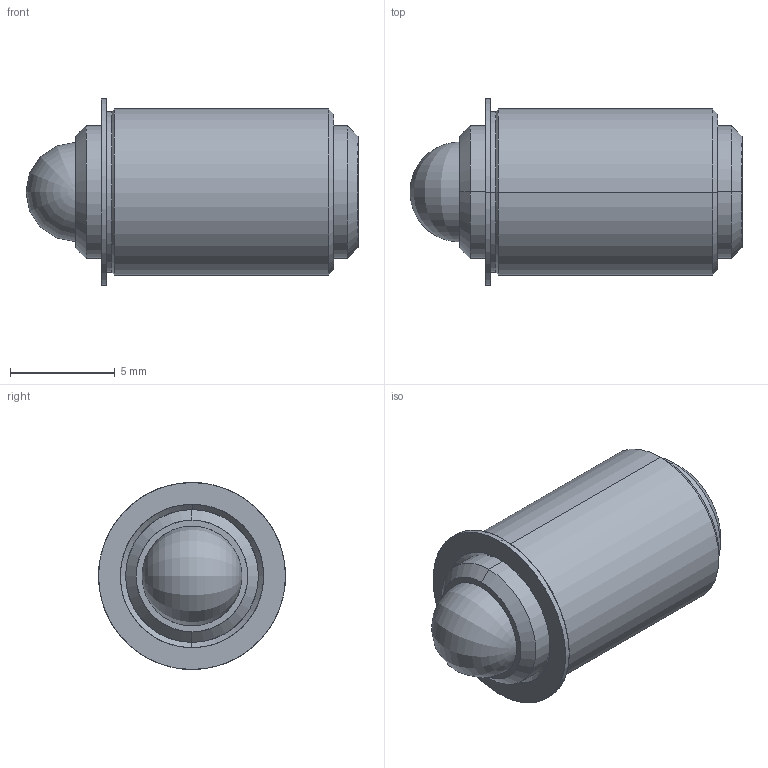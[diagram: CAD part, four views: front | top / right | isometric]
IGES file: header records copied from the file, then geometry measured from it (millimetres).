
Start section: SolidWorks IGES file using analytic representation for surfaces
Global section: file name: C:\Users\workpc\Desktop\KMA Solidworks\TSB250-80-625_437-AA.IGS; native system: SolidWorks 2013; preprocessor: SolidWorks 2013; author: workpc; date: 130314.083432; units: inch
Bounding box: 15.87 x 8.94 x 8.94 mm (x, y, z)
Surface area: 730.9 mm2 (no closed solid volume)
Topology: 0 solids, 0 shells, 33 faces, 406 edges, 402 vertices
Faces by surface type: revolution 22, bspline 11
